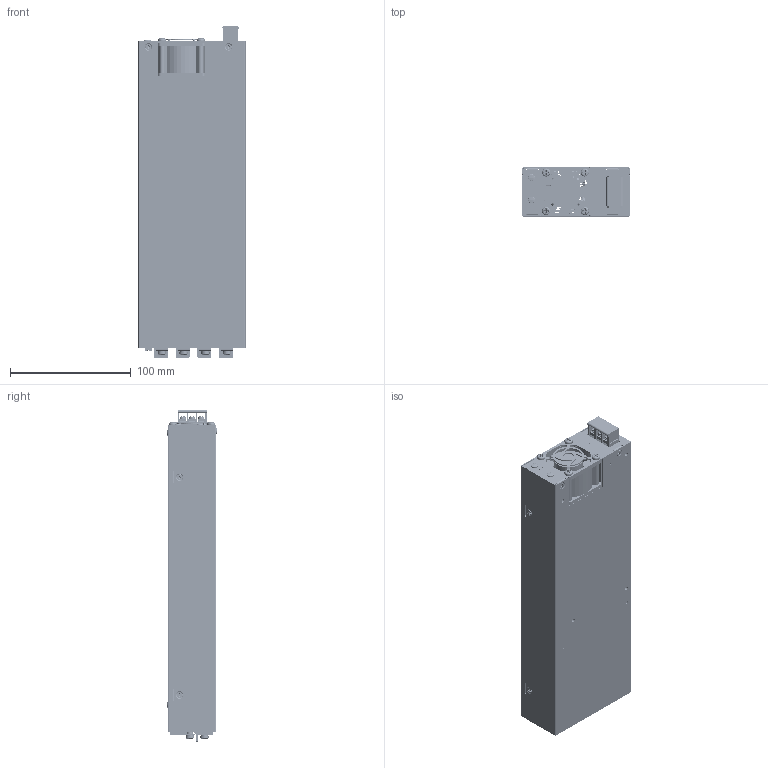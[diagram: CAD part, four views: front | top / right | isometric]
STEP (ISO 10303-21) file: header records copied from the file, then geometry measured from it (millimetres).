
FILE_DESCRIPTION((''),'2;1');
FILE_NAME('MEG-A1K2F4T_AA','2019-09-16T',('Kebang.Hou'),(''),'CREO PARAMETRIC BY PTC INC, 2015200','CREO PARAMETRIC BY PTC INC, 2015200','');
FILE_SCHEMA(('CONFIG_CONTROL_DESIGN'));
Products named in the file (88): CHASSIS_1-5872_1_1; STANDOFF_M3X4_1_1_1; STANDOFF_HOOK_1_1_1; BLOCK_1_1_1; RIVET_1_1_1; STANDOFF_HOOK__1_1_1; CHASSIS_1-5886_1_1; INSULATOR1_1_1_1; BOARD_1_1_1; DEFAULT-8993_1_1_1; DEFAULT-12407_1_1_1; MCN-2_54X2_54_10P_1_1_1; CN304_1_1_1; CN303_1_1_1; CN302_1_1_1; CN301_1_1_1; DEFAULT-2697_1_1_1; DEFAULT-4167_1_1_1; MCN-2_54X2_54_4P_1_1_1; CN7_1_1_1; CN6_1_1_1; CN5_1_1_1; CN4_1_1_1; PCB_1_1_1; MEG-A1K2F4T_AAR0C1_1_1_1; CONTROL_PWB_1-66199_1_1; A2008WR0-4P_1_1_1; FPIN_1_1_1; 878331051_1_1_1; A2003WR0-1BGX14PA-6T_1_1_1; LED_LTL42TG6NH195_1_1_1; CONTROL_PWB_1-66208_1_1; STANDOFF_1_1_1_1; CONTROL_PFC_1_1_1; COVER_1_1_1; INSULATOR2_1_1_1; 3105465600_M3X5_1_1_1; MEG-A1K2F4C_AA_1_1_1; PANEL_2_1-114833_1_1; PANEL_2_1-114845_1_1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
Assembly tree (134 placements, depth 11):
  MEG-A1K2F4T_AA
    MEG-A1K2F4T_AA_1
      MEG-A1K2F4T_AA_1_1
        0_MEG-A1K2F4-AA_1_1_1
          MEG-A1K2F4C_AA_1_1_1
            CHASSIS_1-5886_1_1
              CHASSIS_1-5872_1_1
              STANDOFF_M3X4_1_1_1  x3
              STANDOFF_HOOK_1_1_1
              BLOCK_1_1_1
              RIVET_1_1_1  x2
              STANDOFF_HOOK__1_1_1
            INSULATOR1_1_1_1
            CONTROL_PFC_1_1_1
              MEG-A1K2F4T_AAR0C1_1_1_1
                PCB_1_1_1
                  BOARD_1_1_1
                  CN304_1_1_1
                  CN303_1_1_1
                  CN302_1_1_1
                  CN301_1_1_1
                  CN7_1_1_1
                  CN6_1_1_1
                  CN5_1_1_1
                  CN4_1_1_1
              CONTROL_PWB_1-66208_1_1
                CONTROL_PWB_1-66199_1_1
                A2008WR0-4P_1_1_1
                FPIN_1_1_1  x2
                878331051_1_1_1  x2
                A2003WR0-1BGX14PA-6T_1_1_1
                LED_LTL42TG6NH195_1_1_1  x2
              STANDOFF_1_1_1_1  x2
            COVER_1_1_1
            INSULATOR2_1_1_1
            3105465600_M3X5_1_1_1  x3
          MEG-A2K1PCS2_AA_1_1_1
            PANEL_2_1-114845_1_1
              PANEL_2_1-114833_1_1
            FAN_40X40_1_1_1
            3106164500_1_1_1  x4
            TDC-3_1-139058_1_1
              DT-2G-B95W-03_1_1_1
              TDC-3_1-140465_1_1
              STANDOFF_1_1_1  x2
              BRACKET_1_1_1  x2
              3105465600_M3X5_1_1_1  x2
            HHP-04_1_1_1  x2
          MEG-A300M24S_AA_1_1_1  x4
            MODULE_1_1_1
            613004243121_1_1_1
              613004243121_1_1_1_1
              613004243121_1_2_1_1
              613004243121_1_3_1_1
              613004243121_1_4_1_1
              613004243121_1_5_1_1
            613010243121_1_1_1
              613010243121_1_1_1_1
              613010243121_1_2_1_1
              613010243121_1_3_1_1
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Bounding box: 89.05 x 40.65 x 275.05 mm (x, y, z)
Volume: 183694.6 mm3; surface area: 419621.8 mm2
Topology: 219 solids, 281 shells, 13791 faces, 36423 edges, 23613 vertices
Faces by surface type: plane 9632, cylinder 3338, torus 323, cone 278, extrusion 110, bspline 68, sphere 42
Entity records: 195369 total; most frequent: CARTESIAN_POINT 35131, DIRECTION 29344, ORIENTED_EDGE 29202, EDGE_CURVE 14639, VECTOR 10430, LINE 10320, VERTEX_POINT 9515, AXIS2_PLACEMENT_3D 9457
